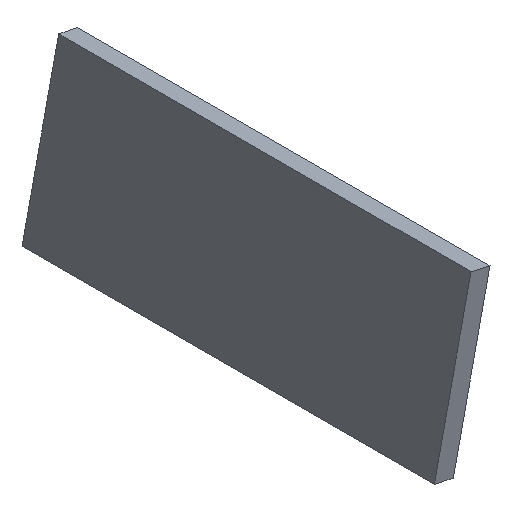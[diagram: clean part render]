
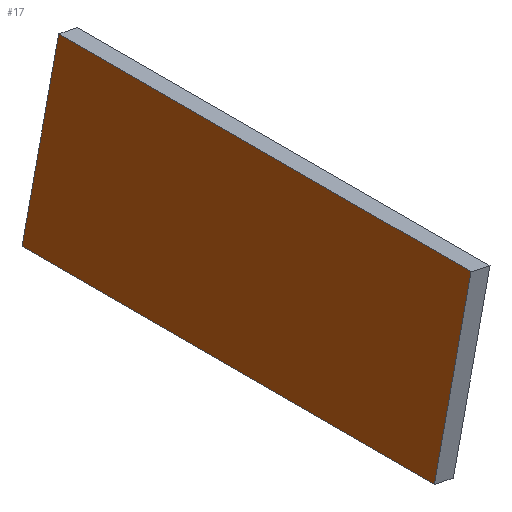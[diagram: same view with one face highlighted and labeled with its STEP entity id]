
A CAD part, isometric view. The second image highlights one B-rep face of the part: STEP entity #17.
In plain terms, the highlighted planar face has unit normal (-0.976, 0, 0.216).
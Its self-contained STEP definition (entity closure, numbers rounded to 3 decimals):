
#17 = ADVANCED_FACE('',(#18),#32,.F.);
#18 = FACE_BOUND('',#19,.F.);
#19 = EDGE_LOOP('',(#20,#55,#83,#111));
#20 = ORIENTED_EDGE('',*,*,#21,.F.);
#21 = EDGE_CURVE('',#22,#24,#26,.T.);
#22 = VERTEX_POINT('',#23);
#23 = CARTESIAN_POINT('',(-27.937,-17.,190.564));
#24 = VERTEX_POINT('',#25);
#25 = CARTESIAN_POINT('',(-24.907,-17.,204.232));
#26 = SURFACE_CURVE('',#27,(#31,#43),.PCURVE_S1.);
#27 = LINE('',#28,#29);
#28 = CARTESIAN_POINT('',(-27.937,-17.,190.564));
#29 = VECTOR('',#30,1.);
#30 = DIRECTION('',(0.216,0.,0.976));
#31 = PCURVE('',#32,#37);
#32 = PLANE('',#33);
#33 = AXIS2_PLACEMENT_3D('',#34,#35,#36);
#34 = CARTESIAN_POINT('',(-27.937,-17.,190.564));
#35 = DIRECTION('',(0.976,0.,-0.216));
#36 = DIRECTION('',(0.216,0.,0.976));
#37 = DEFINITIONAL_REPRESENTATION('',(#38),#42);
#38 = LINE('',#39,#40);
#39 = CARTESIAN_POINT('',(0.,0.));
#40 = VECTOR('',#41,1.);
#41 = DIRECTION('',(1.,0.));
#42 = ( GEOMETRIC_REPRESENTATION_CONTEXT(2) 
PARAMETRIC_REPRESENTATION_CONTEXT() REPRESENTATION_CONTEXT('2D SPACE',''
  ) );
#43 = PCURVE('',#44,#49);
#44 = PLANE('',#45);
#45 = AXIS2_PLACEMENT_3D('',#46,#47,#48);
#46 = CARTESIAN_POINT('',(-27.937,-17.,190.564));
#47 = DIRECTION('',(0.,1.,0.));
#48 = DIRECTION('',(0.216,0.,0.976));
#49 = DEFINITIONAL_REPRESENTATION('',(#50),#54);
#50 = LINE('',#51,#52);
#51 = CARTESIAN_POINT('',(0.,0.));
#52 = VECTOR('',#53,1.);
#53 = DIRECTION('',(1.,0.));
#54 = ( GEOMETRIC_REPRESENTATION_CONTEXT(2) 
PARAMETRIC_REPRESENTATION_CONTEXT() REPRESENTATION_CONTEXT('2D SPACE',''
  ) );
#55 = ORIENTED_EDGE('',*,*,#56,.T.);
#56 = EDGE_CURVE('',#22,#57,#59,.T.);
#57 = VERTEX_POINT('',#58);
#58 = CARTESIAN_POINT('',(-27.937,17.,190.564));
#59 = SURFACE_CURVE('',#60,(#64,#71),.PCURVE_S1.);
#60 = LINE('',#61,#62);
#61 = CARTESIAN_POINT('',(-27.937,-17.,190.564));
#62 = VECTOR('',#63,1.);
#63 = DIRECTION('',(0.,1.,0.));
#64 = PCURVE('',#32,#65);
#65 = DEFINITIONAL_REPRESENTATION('',(#66),#70);
#66 = LINE('',#67,#68);
#67 = CARTESIAN_POINT('',(0.,0.));
#68 = VECTOR('',#69,1.);
#69 = DIRECTION('',(0.,-1.));
#70 = ( GEOMETRIC_REPRESENTATION_CONTEXT(2) 
PARAMETRIC_REPRESENTATION_CONTEXT() REPRESENTATION_CONTEXT('2D SPACE',''
  ) );
#71 = PCURVE('',#72,#77);
#72 = PLANE('',#73);
#73 = AXIS2_PLACEMENT_3D('',#74,#75,#76);
#74 = CARTESIAN_POINT('',(-27.937,-17.,190.564));
#75 = DIRECTION('',(0.216,0.,0.976));
#76 = DIRECTION('',(0.976,0.,-0.216));
#77 = DEFINITIONAL_REPRESENTATION('',(#78),#82);
#78 = LINE('',#79,#80);
#79 = CARTESIAN_POINT('',(0.,0.));
#80 = VECTOR('',#81,1.);
#81 = DIRECTION('',(0.,1.));
#82 = ( GEOMETRIC_REPRESENTATION_CONTEXT(2) 
PARAMETRIC_REPRESENTATION_CONTEXT() REPRESENTATION_CONTEXT('2D SPACE',''
  ) );
#83 = ORIENTED_EDGE('',*,*,#84,.T.);
#84 = EDGE_CURVE('',#57,#85,#87,.T.);
#85 = VERTEX_POINT('',#86);
#86 = CARTESIAN_POINT('',(-24.907,17.,204.232));
#87 = SURFACE_CURVE('',#88,(#92,#99),.PCURVE_S1.);
#88 = LINE('',#89,#90);
#89 = CARTESIAN_POINT('',(-27.937,17.,190.564));
#90 = VECTOR('',#91,1.);
#91 = DIRECTION('',(0.216,0.,0.976));
#92 = PCURVE('',#32,#93);
#93 = DEFINITIONAL_REPRESENTATION('',(#94),#98);
#94 = LINE('',#95,#96);
#95 = CARTESIAN_POINT('',(0.,-34.));
#96 = VECTOR('',#97,1.);
#97 = DIRECTION('',(1.,0.));
#98 = ( GEOMETRIC_REPRESENTATION_CONTEXT(2) 
PARAMETRIC_REPRESENTATION_CONTEXT() REPRESENTATION_CONTEXT('2D SPACE',''
  ) );
#99 = PCURVE('',#100,#105);
#100 = PLANE('',#101);
#101 = AXIS2_PLACEMENT_3D('',#102,#103,#104);
#102 = CARTESIAN_POINT('',(-27.937,17.,190.564));
#103 = DIRECTION('',(0.,1.,0.));
#104 = DIRECTION('',(0.216,0.,0.976));
#105 = DEFINITIONAL_REPRESENTATION('',(#106),#110);
#106 = LINE('',#107,#108);
#107 = CARTESIAN_POINT('',(0.,0.));
#108 = VECTOR('',#109,1.);
#109 = DIRECTION('',(1.,0.));
#110 = ( GEOMETRIC_REPRESENTATION_CONTEXT(2) 
PARAMETRIC_REPRESENTATION_CONTEXT() REPRESENTATION_CONTEXT('2D SPACE',''
  ) );
#111 = ORIENTED_EDGE('',*,*,#112,.F.);
#112 = EDGE_CURVE('',#24,#85,#113,.T.);
#113 = SURFACE_CURVE('',#114,(#118,#125),.PCURVE_S1.);
#114 = LINE('',#115,#116);
#115 = CARTESIAN_POINT('',(-24.907,-17.,204.232));
#116 = VECTOR('',#117,1.);
#117 = DIRECTION('',(0.,1.,0.));
#118 = PCURVE('',#32,#119);
#119 = DEFINITIONAL_REPRESENTATION('',(#120),#124);
#120 = LINE('',#121,#122);
#121 = CARTESIAN_POINT('',(14.,0.));
#122 = VECTOR('',#123,1.);
#123 = DIRECTION('',(0.,-1.));
#124 = ( GEOMETRIC_REPRESENTATION_CONTEXT(2) 
PARAMETRIC_REPRESENTATION_CONTEXT() REPRESENTATION_CONTEXT('2D SPACE',''
  ) );
#125 = PCURVE('',#126,#131);
#126 = PLANE('',#127);
#127 = AXIS2_PLACEMENT_3D('',#128,#129,#130);
#128 = CARTESIAN_POINT('',(-24.907,-17.,204.232));
#129 = DIRECTION('',(0.216,0.,0.976));
#130 = DIRECTION('',(0.976,0.,-0.216));
#131 = DEFINITIONAL_REPRESENTATION('',(#132),#136);
#132 = LINE('',#133,#134);
#133 = CARTESIAN_POINT('',(0.,0.));
#134 = VECTOR('',#135,1.);
#135 = DIRECTION('',(0.,1.));
#136 = ( GEOMETRIC_REPRESENTATION_CONTEXT(2) 
PARAMETRIC_REPRESENTATION_CONTEXT() REPRESENTATION_CONTEXT('2D SPACE',''
  ) );
